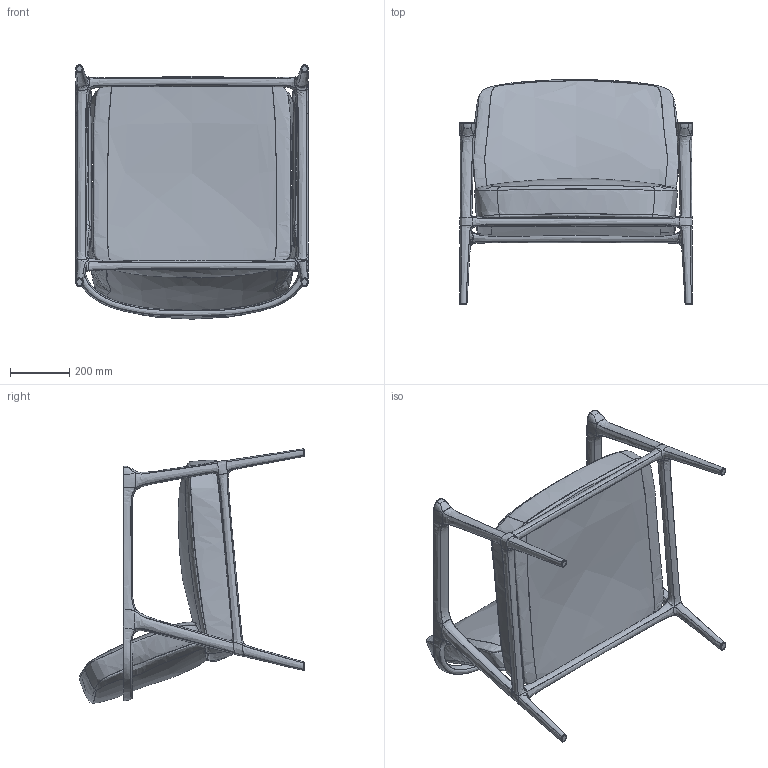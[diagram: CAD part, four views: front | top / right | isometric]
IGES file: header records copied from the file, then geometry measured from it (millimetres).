
Start section: SolidWorks IGES file using analytic representation for surfaces
Global section: file name: P:\Corporate Identity\4_Product_Content\2d3ddag_2014\Zio Lounge Chair\3D\Zio Lounge Chair.IGS; native system: SolidWorks 2014; preprocessor: SolidWorks 2014; author: wybrand; date: 140909.162150; units: millimetre
Bounding box: 786.55 x 760.52 x 858.71 mm (x, y, z)
Surface area: 2535530.1 mm2 (no closed solid volume)
Topology: 0 solids, 0 shells, 150 faces, 2532 edges, 2532 vertices
Faces by surface type: bspline 150
